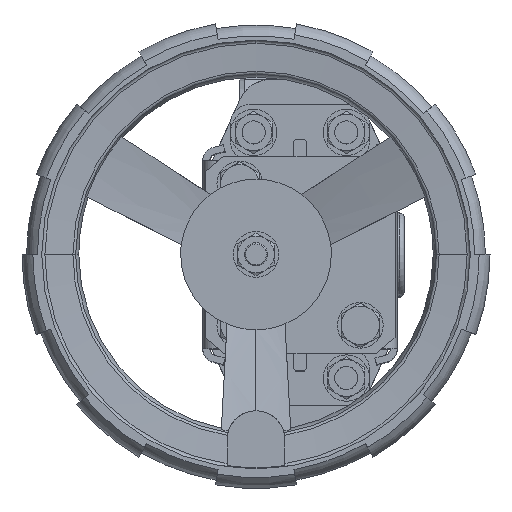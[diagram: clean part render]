
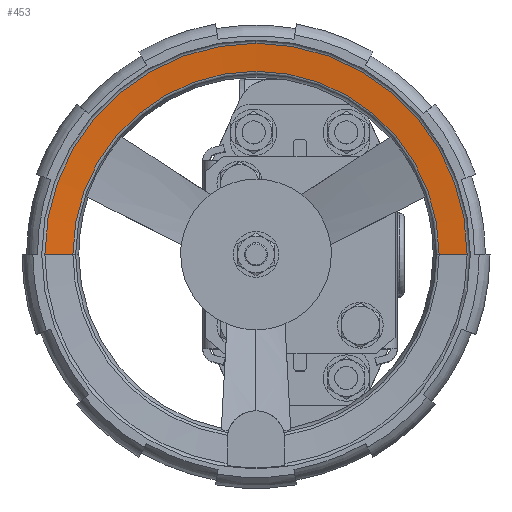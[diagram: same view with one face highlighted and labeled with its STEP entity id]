
A CAD part, top view. The second image highlights one B-rep face of the part: STEP entity #453.
In plain terms, the highlighted conical face has half-angle 85 degrees and reference radius 85.39 mm.
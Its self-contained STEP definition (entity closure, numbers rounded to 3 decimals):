
#453=ADVANCED_FACE('',(#1755),#1756,.F.);
#1755=FACE_OUTER_BOUND('',#4343,.T.);
#1756=CONICAL_SURFACE('',#4344,85.39,1.484);
#4343=EDGE_LOOP('',(#12399,#12400,#12401,#12402,#12403));
#4344=AXIS2_PLACEMENT_3D('',#12404,#12405,#12406);
#12399=ORIENTED_EDGE('',*,*,#21671,.F.);
#12400=ORIENTED_EDGE('',*,*,#21672,.F.);
#12401=ORIENTED_EDGE('',*,*,#21667,.F.);
#12402=ORIENTED_EDGE('',*,*,#21660,.F.);
#12403=ORIENTED_EDGE('',*,*,#21673,.F.);
#12404=CARTESIAN_POINT('',(-19.,0.,378.622));
#12405=DIRECTION('',(0.,0.,1.));
#12406=DIRECTION('',(-1.,0.,0.));
#21660=EDGE_CURVE('',#25360,#25363,#25364,.T.);
#21667=EDGE_CURVE('',#25363,#25376,#25377,.T.);
#21671=EDGE_CURVE('',#25383,#25384,#25385,.T.);
#21672=EDGE_CURVE('',#25376,#25383,#25386,.T.);
#21673=EDGE_CURVE('',#25384,#25360,#25387,.T.);
#25360=VERTEX_POINT('',#30619);
#25363=VERTEX_POINT('',#30622);
#25364=CIRCLE('',#30623,91.131);
#25376=VERTEX_POINT('',#30657);
#25377=LINE('',#30658,#30659);
#25383=VERTEX_POINT('',#30696);
#25384=VERTEX_POINT('',#30697);
#25385=LINE('',#30698,#30699);
#25386=CIRCLE('',#30700,79.042);
#25387=CIRCLE('',#30701,91.131);
#30619=CARTESIAN_POINT('',(-19.,91.131,379.124));
#30622=CARTESIAN_POINT('',(72.131,0.,379.124));
#30623=AXIS2_PLACEMENT_3D('',#43864,#43865,#43866);
#30657=CARTESIAN_POINT('',(60.042,0.,378.067));
#30658=CARTESIAN_POINT('',(66.39,0.,378.622));
#30659=VECTOR('',#43882,1.);
#30696=CARTESIAN_POINT('',(-98.042,0.,378.067));
#30697=CARTESIAN_POINT('',(-110.131,0.,379.124));
#30698=CARTESIAN_POINT('',(-104.39,0.,378.622));
#30699=VECTOR('',#43886,1.);
#30700=AXIS2_PLACEMENT_3D('',#43887,#43888,#43889);
#30701=AXIS2_PLACEMENT_3D('',#43890,#43891,#43892);
#43864=CARTESIAN_POINT('',(-19.,0.,379.124));
#43865=DIRECTION('',(0.,0.,-1.));
#43866=DIRECTION('',(0.,-1.,0.));
#43882=DIRECTION('',(-0.996,0.,-0.087));
#43886=DIRECTION('',(-0.996,0.,0.087));
#43887=CARTESIAN_POINT('',(-19.,0.,378.067));
#43888=DIRECTION('',(0.,0.,1.));
#43889=DIRECTION('',(0.,1.,0.));
#43890=CARTESIAN_POINT('',(-19.,0.,379.124));
#43891=DIRECTION('',(0.,0.,-1.));
#43892=DIRECTION('',(0.,-1.,0.));
